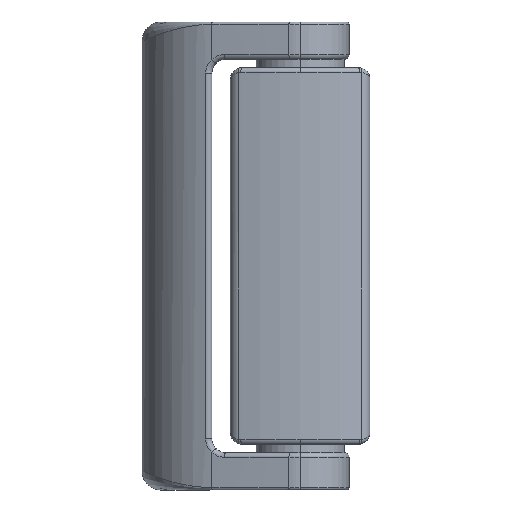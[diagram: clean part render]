
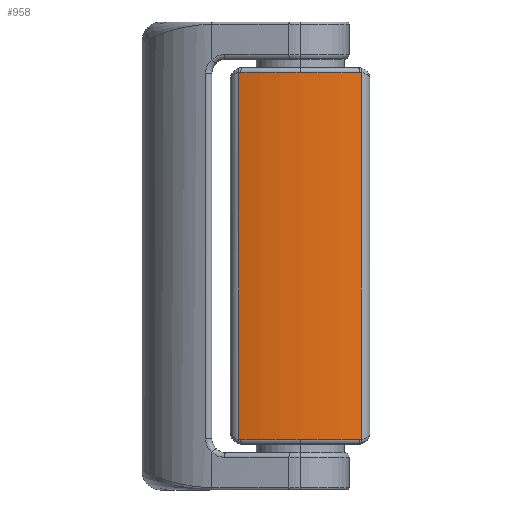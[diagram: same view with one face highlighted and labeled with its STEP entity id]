
A CAD part, top view. The second image highlights one B-rep face of the part: STEP entity #958.
In plain terms, the highlighted cylindrical face has radius 50 mm (diameter 100 mm), a partial arc.
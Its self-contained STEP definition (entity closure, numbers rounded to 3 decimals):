
#36 = CARTESIAN_POINT ( 'NONE',  ( 13.158, 39.447, 20.738 ) ) ;
#42 = CARTESIAN_POINT ( 'NONE',  ( -12.755, -39.5, 20.846 ) ) ;
#71 = CARTESIAN_POINT ( 'NONE',  ( 13.158, 40.5, 20.738 ) ) ;
#89 = VERTEX_POINT ( 'NONE', #2105 ) ;
#92 = DIRECTION ( 'NONE',  ( 0., 0., 1. ) ) ;
#109 = B_SPLINE_CURVE_WITH_KNOTS ( 'NONE', 3,
 ( #370, #3478, #2388, #2406 ),
 .UNSPECIFIED., .F., .F.,
 ( 4, 4 ),
 ( 0., 0. ),
 .UNSPECIFIED. ) ;
#111 = CARTESIAN_POINT ( 'NONE',  ( 12.755, 39.5, 20.846 ) ) ;
#241 = CARTESIAN_POINT ( 'NONE',  ( 13.026, -39.482, 20.774 ) ) ;
#256 = LINE ( 'NONE', #4909, #1299 ) ;
#266 = CARTESIAN_POINT ( 'NONE',  ( -13.158, -39.447, 20.738 ) ) ;
#275 = CIRCLE ( 'NONE', #1524, 50. ) ;
#284 = LINE ( 'NONE', #71, #2514 ) ;
#369 = AXIS2_PLACEMENT_3D ( 'NONE', #1098, #4566, #725 ) ;
#370 = CARTESIAN_POINT ( 'NONE',  ( -12.755, 39.5, 20.846 ) ) ;
#372 = EDGE_CURVE ( 'NONE', #2026, #3448, #4284, .T. ) ;
#388 = B_SPLINE_CURVE_WITH_KNOTS ( 'NONE', 3,
 ( #4865, #1827, #4084, #4610 ),
 .UNSPECIFIED., .F., .F.,
 ( 4, 4 ),
 ( 0., 0. ),
 .UNSPECIFIED. ) ;
#420 = VERTEX_POINT ( 'NONE', #4476 ) ;
#473 = DIRECTION ( 'NONE',  ( 0., 1., 0. ) ) ;
#681 = AXIS2_PLACEMENT_3D ( 'NONE', #4021, #4061, #4052 ) ;
#725 = DIRECTION ( 'NONE',  ( 0., 0., -1. ) ) ;
#732 = EDGE_CURVE ( 'NONE', #3343, #1685, #388, .T. ) ;
#755 = CYLINDRICAL_SURFACE ( 'NONE', #369, 50. ) ;
#785 = EDGE_CURVE ( 'NONE', #1685, #2026, #2113, .T. ) ;
#864 = B_SPLINE_CURVE_WITH_KNOTS ( 'NONE', 3,
 ( #4030, #4140, #4006, #3990 ),
 .UNSPECIFIED., .F., .F.,
 ( 4, 4 ),
 ( 0., 0. ),
 .UNSPECIFIED. ) ;
#877 = FACE_OUTER_BOUND ( 'NONE', #3308, .T. ) ;
#958 = ADVANCED_FACE ( 'NONE', ( #877 ), #755, .T. ) ;
#1013 = CARTESIAN_POINT ( 'NONE',  ( 12.755, -39.5, 20.846 ) ) ;
#1098 = CARTESIAN_POINT ( 'NONE',  ( 0., 40.5, -27.5 ) ) ;
#1162 = VERTEX_POINT ( 'NONE', #2889 ) ;
#1299 = VECTOR ( 'NONE', #3753, 1000. ) ;
#1365 = ORIENTED_EDGE ( 'NONE', *, *, #3097, .T. ) ;
#1389 = ORIENTED_EDGE ( 'NONE', *, *, #3740, .T. ) ;
#1524 = AXIS2_PLACEMENT_3D ( 'NONE', #4818, #2456, #92 ) ;
#1562 = ORIENTED_EDGE ( 'NONE', *, *, #732, .T. ) ;
#1608 = EDGE_CURVE ( 'NONE', #1162, #3343, #256, .T. ) ;
#1685 = VERTEX_POINT ( 'NONE', #42 ) ;
#1827 = CARTESIAN_POINT ( 'NONE',  ( -13.026, -39.482, 20.774 ) ) ;
#1959 = ORIENTED_EDGE ( 'NONE', *, *, #1608, .T. ) ;
#2026 = VERTEX_POINT ( 'NONE', #4044 ) ;
#2105 = CARTESIAN_POINT ( 'NONE',  ( 0., 39.5, 22.5 ) ) ;
#2113 = CIRCLE ( 'NONE', #3225, 50. ) ;
#2308 = VERTEX_POINT ( 'NONE', #111 ) ;
#2388 = CARTESIAN_POINT ( 'NONE',  ( -13.026, 39.482, 20.774 ) ) ;
#2406 = CARTESIAN_POINT ( 'NONE',  ( -13.158, 39.447, 20.738 ) ) ;
#2449 = ORIENTED_EDGE ( 'NONE', *, *, #2777, .T. ) ;
#2456 = DIRECTION ( 'NONE',  ( 0., -1., 0. ) ) ;
#2462 = ORIENTED_EDGE ( 'NONE', *, *, #3943, .T. ) ;
#2514 = VECTOR ( 'NONE', #2832, 1000. ) ;
#2515 = CARTESIAN_POINT ( 'NONE',  ( 0., 39.5, -27.5 ) ) ;
#2687 = ORIENTED_EDGE ( 'NONE', *, *, #785, .T. ) ;
#2751 = ORIENTED_EDGE ( 'NONE', *, *, #4927, .T. ) ;
#2777 = EDGE_CURVE ( 'NONE', #4907, #1162, #109, .T. ) ;
#2832 = DIRECTION ( 'NONE',  ( 0., 1., 0. ) ) ;
#2835 = VERTEX_POINT ( 'NONE', #36 ) ;
#2889 = CARTESIAN_POINT ( 'NONE',  ( -13.158, 39.447, 20.738 ) ) ;
#2905 = DIRECTION ( 'NONE',  ( 0., -1., 0. ) ) ;
#3007 = CARTESIAN_POINT ( 'NONE',  ( 13.158, -39.447, 20.738 ) ) ;
#3064 = CIRCLE ( 'NONE', #3094, 50. ) ;
#3094 = AXIS2_PLACEMENT_3D ( 'NONE', #2515, #2905, #3302 ) ;
#3097 = EDGE_CURVE ( 'NONE', #2835, #2308, #864, .T. ) ;
#3219 = CARTESIAN_POINT ( 'NONE',  ( -12.755, 39.5, 20.846 ) ) ;
#3225 = AXIS2_PLACEMENT_3D ( 'NONE', #4434, #473, #3633 ) ;
#3302 = DIRECTION ( 'NONE',  ( 0., 0., 1. ) ) ;
#3308 = EDGE_LOOP ( 'NONE', ( #2462, #2751, #2449, #1959, #1562, #2687, #4751, #3869, #1389, #1365 ) ) ;
#3343 = VERTEX_POINT ( 'NONE', #266 ) ;
#3448 = VERTEX_POINT ( 'NONE', #4516 ) ;
#3478 = CARTESIAN_POINT ( 'NONE',  ( -12.892, 39.5, 20.81 ) ) ;
#3633 = DIRECTION ( 'NONE',  ( 0., 0., 1. ) ) ;
#3740 = EDGE_CURVE ( 'NONE', #420, #2835, #284, .T. ) ;
#3753 = DIRECTION ( 'NONE',  ( 0., -1., 0. ) ) ;
#3869 = ORIENTED_EDGE ( 'NONE', *, *, #4624, .T. ) ;
#3943 = EDGE_CURVE ( 'NONE', #2308, #89, #3064, .T. ) ;
#3990 = CARTESIAN_POINT ( 'NONE',  ( 12.755, 39.5, 20.846 ) ) ;
#4006 = CARTESIAN_POINT ( 'NONE',  ( 12.892, 39.5, 20.81 ) ) ;
#4021 = CARTESIAN_POINT ( 'NONE',  ( 0., -39.5, -27.5 ) ) ;
#4030 = CARTESIAN_POINT ( 'NONE',  ( 13.158, 39.447, 20.738 ) ) ;
#4044 = CARTESIAN_POINT ( 'NONE',  ( 0., -39.5, 22.5 ) ) ;
#4052 = DIRECTION ( 'NONE',  ( 0., 0., 1. ) ) ;
#4061 = DIRECTION ( 'NONE',  ( 0., 1., 0. ) ) ;
#4084 = CARTESIAN_POINT ( 'NONE',  ( -12.892, -39.5, 20.81 ) ) ;
#4140 = CARTESIAN_POINT ( 'NONE',  ( 13.026, 39.482, 20.774 ) ) ;
#4284 = CIRCLE ( 'NONE', #681, 50. ) ;
#4434 = CARTESIAN_POINT ( 'NONE',  ( 0., -39.5, -27.5 ) ) ;
#4476 = CARTESIAN_POINT ( 'NONE',  ( 13.158, -39.447, 20.738 ) ) ;
#4516 = CARTESIAN_POINT ( 'NONE',  ( 12.755, -39.5, 20.846 ) ) ;
#4566 = DIRECTION ( 'NONE',  ( 0., -1., 0. ) ) ;
#4610 = CARTESIAN_POINT ( 'NONE',  ( -12.755, -39.5, 20.846 ) ) ;
#4624 = EDGE_CURVE ( 'NONE', #3448, #420, #5052, .T. ) ;
#4751 = ORIENTED_EDGE ( 'NONE', *, *, #372, .T. ) ;
#4818 = CARTESIAN_POINT ( 'NONE',  ( 0., 39.5, -27.5 ) ) ;
#4865 = CARTESIAN_POINT ( 'NONE',  ( -13.158, -39.447, 20.738 ) ) ;
#4907 = VERTEX_POINT ( 'NONE', #3219 ) ;
#4909 = CARTESIAN_POINT ( 'NONE',  ( -13.158, 40.5, 20.738 ) ) ;
#4927 = EDGE_CURVE ( 'NONE', #89, #4907, #275, .T. ) ;
#4950 = CARTESIAN_POINT ( 'NONE',  ( 12.892, -39.5, 20.81 ) ) ;
#5052 = B_SPLINE_CURVE_WITH_KNOTS ( 'NONE', 3,
 ( #1013, #4950, #241, #3007 ),
 .UNSPECIFIED., .F., .F.,
 ( 4, 4 ),
 ( 0., 0. ),
 .UNSPECIFIED. ) ;
